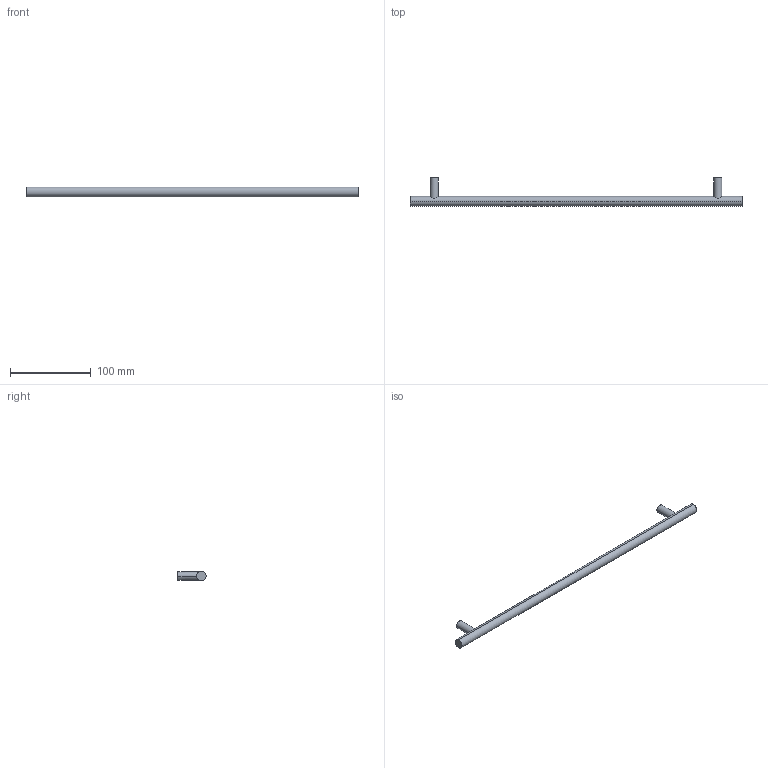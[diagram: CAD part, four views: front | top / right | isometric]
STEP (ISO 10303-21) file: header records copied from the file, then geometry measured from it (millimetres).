
FILE_DESCRIPTION( ( '' ), '1' );
FILE_NAME( 'D:/1.AUTOCAD EXPORT/Group 10/sheet_10_1/9071023.stp', '2013-10-21T10:18:43', ( '' ), ( '' ), ' ', ' ', ' ' );
FILE_SCHEMA( ( 'automotive_design' ) );
Length unit declared in the file: millimetre
Products named in the file (1): 1
Bounding box: 412 x 35 x 12 mm (x, y, z)
Volume: 49998.6 mm3; surface area: 17563.6 mm2
Topology: 1 solids, 1 shells, 16 faces, 32 edges, 22 vertices
Faces by surface type: cylinder 10, plane 6
Entity records: 972 total; most frequent: CARTESIAN_POINT 205, DIRECTION 76, STYLED_ITEM 71, PRESENTATION_STYLE_ASSIGNMENT 71, COLOUR_RGB 71, ORIENTED_EDGE 64, AXIS2_PLACEMENT_3D 33, EDGE_CURVE 32
